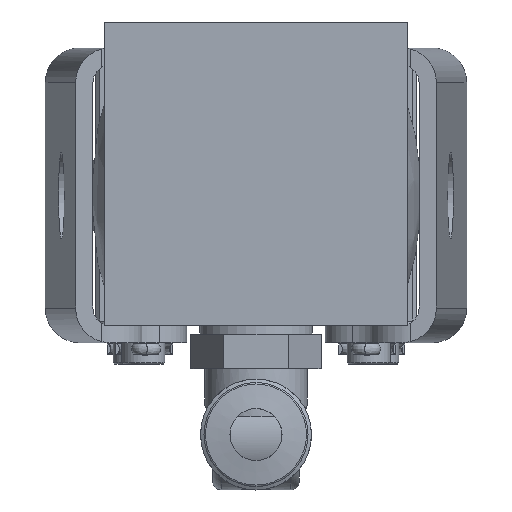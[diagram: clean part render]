
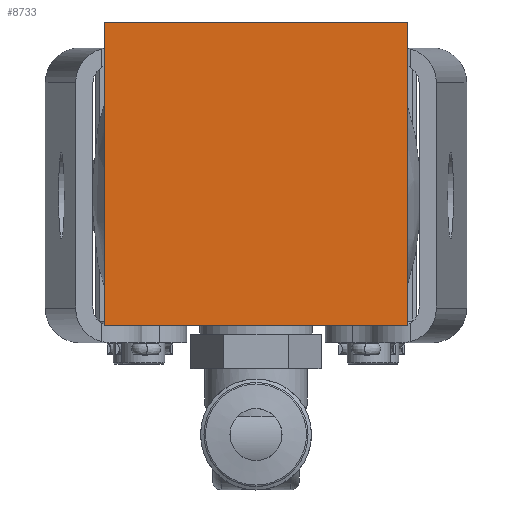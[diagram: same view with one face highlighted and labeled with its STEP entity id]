
A CAD part, front view. The second image highlights one B-rep face of the part: STEP entity #8733.
In plain terms, the highlighted planar face has unit normal (0, -1, 0).
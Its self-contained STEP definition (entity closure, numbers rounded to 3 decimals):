
#467=PLANE('',#9611);
#1284=FACE_OUTER_BOUND('',#1801,.T.);
#1801=EDGE_LOOP('',(#8148,#8149,#8150,#8151));
#1873=LINE('',#12716,#2440);
#2287=LINE('',#20457,#2854);
#2334=LINE('',#20629,#2901);
#2370=LINE('',#20831,#2937);
#2440=VECTOR('',#9913,10.);
#2854=VECTOR('',#11543,10.);
#2901=VECTOR('',#11698,10.);
#2937=VECTOR('',#11878,10.);
#3556=VERTEX_POINT('',#12713);
#3557=VERTEX_POINT('',#12715);
#4211=VERTEX_POINT('',#20455);
#4262=VERTEX_POINT('',#20628);
#4489=EDGE_CURVE('',#3557,#3556,#1873,.T.);
#5451=EDGE_CURVE('',#3556,#4211,#2287,.T.);
#5530=EDGE_CURVE('',#3557,#4262,#2334,.T.);
#5608=EDGE_CURVE('',#4211,#4262,#2370,.T.);
#8148=ORIENTED_EDGE('',*,*,#5608,.T.);
#8149=ORIENTED_EDGE('',*,*,#5530,.F.);
#8150=ORIENTED_EDGE('',*,*,#4489,.T.);
#8151=ORIENTED_EDGE('',*,*,#5451,.T.);
#8733=ADVANCED_FACE('',(#1284),#467,.T.);
#9611=AXIS2_PLACEMENT_3D('',#20830,#11876,#11877);
#9913=DIRECTION('',(1.,0.,0.));
#11543=DIRECTION('',(0.,0.,1.));
#11698=DIRECTION('',(0.,0.,1.));
#11876=DIRECTION('center_axis',(0.,-1.,0.));
#11877=DIRECTION('ref_axis',(0.,0.,
1.));
#11878=DIRECTION('',(-1.,0.,0.));
#12713=CARTESIAN_POINT('',(17.5,-50.,-17.5));
#12715=CARTESIAN_POINT('',(-17.5,-50.,-17.5));
#12716=CARTESIAN_POINT('',(-17.5,-50.,-17.5));
#20455=CARTESIAN_POINT('',(17.5,-50.,17.5));
#20457=CARTESIAN_POINT('',(17.5,-50.,0.));
#20628=CARTESIAN_POINT('',(-17.5,-50.,17.5));
#20629=CARTESIAN_POINT('',(-17.5,-50.,0.));
#20830=CARTESIAN_POINT('Origin',(17.5,-50.,0.));
#20831=CARTESIAN_POINT('',(-17.5,-50.,17.5));
